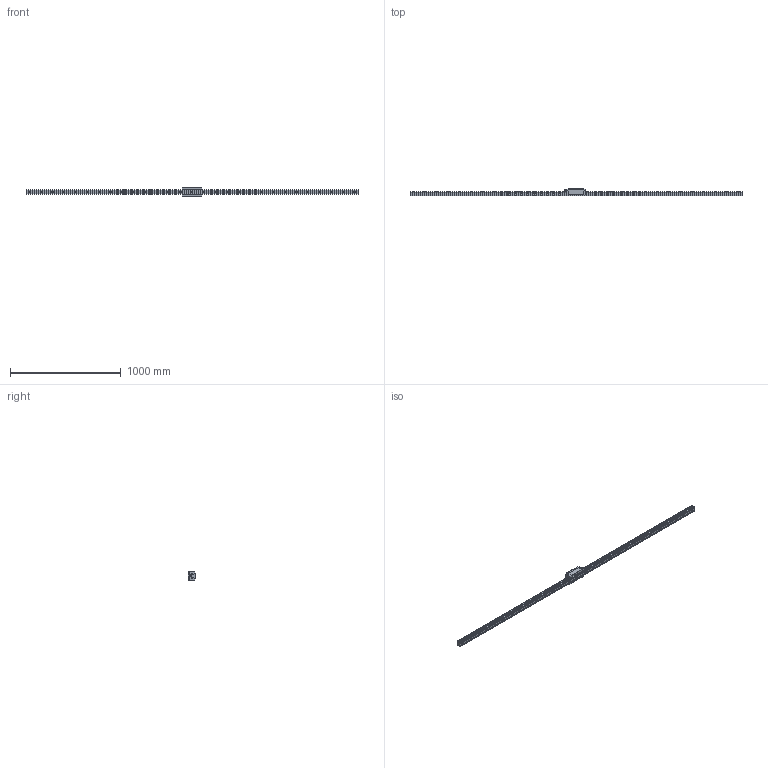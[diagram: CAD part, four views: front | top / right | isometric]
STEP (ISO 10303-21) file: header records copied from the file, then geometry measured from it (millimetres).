
FILE_DESCRIPTION(/* description */ ('STEP AP214'),/* implementation_level */ '2;1');
FILE_NAME(/* name */ 'HDR45LR1SS-3000L_G30_0_B-PT18_1411-35_0_0_01',/* time_stamp */ '2023-06-30T12:51:25+02:00',/* author */ ('License CC BY-ND 4.0'),/* organization */ ('CADENAS'),/* preprocessor_version */ 'ST-DEVELOPER v19.3',/* originating_system */ 'PARTsolutions',/* authorisation */ ' ');
FILE_SCHEMA (('AUTOMOTIVE_DESIGN {1 0 10303 214 3 1 1}'));
Length unit declared in the file: millimetre
Products named in the file (4): HDR45LR1SS-3000L_G30_0_B-PT18_1411-35_0_0_01; hsr_ftht_B-PT1/8_grease_nipple_joint; HDR45LRSSB-PT1/8 Slider-1; HDR45LR1300030 Rail
Assembly tree (3 placements, depth 2):
  HDR45LR1SS-3000L_G30_0_B-PT18_1411-35_0_0_01
    hsr_ftht_B-PT1/8_grease_nipple_joint
    HDR45LRSSB-PT1/8 Slider-1
    HDR45LR1300030 Rail
Bounding box: 3000 x 70 x 86 mm (x, y, z)
Volume: 4813283.2 mm3; surface area: 652721.6 mm2
Topology: 3 solids, 3 shells, 304 faces, 742 edges, 483 vertices
Faces by surface type: plane 160, cylinder 115, cone 24, torus 3, sphere 2
Full cylindrical faces by diameter (mm): 5.2 x4, 8.376 x6, 9.6 x1, 10.2 x2, 12.5 x2, 14 x29, 20 x29
Entity records: 8620 total; most frequent: CARTESIAN_POINT 1537, DIRECTION 1470, ORIENTED_EDGE 1250, EDGE_CURVE 625, AXIS2_PLACEMENT_3D 564, FACE_BOUND 511, EDGE_LOOP 503, VERTEX_POINT 476
